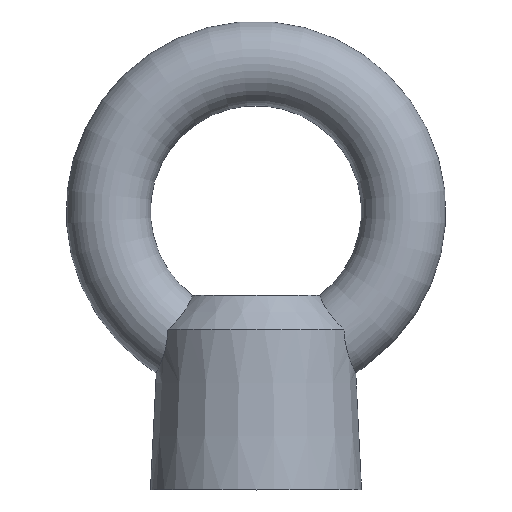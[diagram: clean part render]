
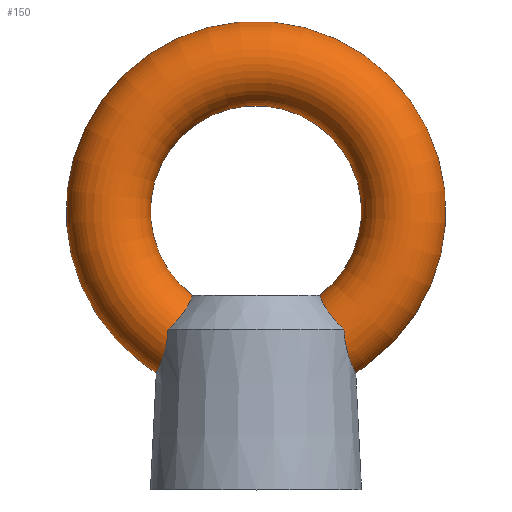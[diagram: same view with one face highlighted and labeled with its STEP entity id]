
A CAD part, top view. The second image highlights one B-rep face of the part: STEP entity #150.
In plain terms, the highlighted toroidal (fillet/blend) face has major radius 35 mm and minor radius 10 mm.
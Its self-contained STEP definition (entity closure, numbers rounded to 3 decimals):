
#19=B_SPLINE_CURVE_WITH_KNOTS('',3,(#259,#260,#261,#262,#263,#264,#265,
#266,#267,#268,#269,#270,#271,#272,#273,#274,#275,#276,#277,#278),
 .UNSPECIFIED.,.F.,.F.,(4,2,2,2,2,2,2,2,2,4),(0.,0.428,0.811,
1.187,1.574,1.967,2.358,2.738,
3.036,3.321),.UNSPECIFIED.);
#20=B_SPLINE_CURVE_WITH_KNOTS('',3,(#280,#281,#282,#283,#284,#285,#286,
#287,#288,#289,#290,#291),.UNSPECIFIED.,.F.,.F.,(4,2,2,2,2,4),(1.573,
1.887,2.273,2.654,2.9,3.145),
 .UNSPECIFIED.);
#21=B_SPLINE_CURVE_WITH_KNOTS('',3,(#295,#296,#297,#298,#299,#300,#301,
#302,#303,#304,#305,#306),.UNSPECIFIED.,.F.,.F.,(4,2,2,2,2,4),(0.,0.382,
0.748,1.125,1.515,1.573),
 .UNSPECIFIED.);
#22=B_SPLINE_CURVE_WITH_KNOTS('',3,(#308,#309,#310,#311,#312,#313,#314,
#315,#316,#317,#318,#319),.UNSPECIFIED.,.F.,.F.,(4,2,2,2,2,4),(1.662,
1.967,2.358,2.738,3.036,3.321),
 .UNSPECIFIED.);
#23=B_SPLINE_CURVE_WITH_KNOTS('',3,(#321,#322,#323,#324,#325,#326,#327,
#328,#329,#330,#331,#332),.UNSPECIFIED.,.F.,.F.,(4,2,2,2,2,4),(0.,0.428,
0.811,1.187,1.574,1.662),
 .UNSPECIFIED.);
#24=B_SPLINE_CURVE_WITH_KNOTS('',3,(#333,#334,#335,#336,#337,#338,#339,
#340,#341,#342,#343,#344),.UNSPECIFIED.,.F.,.F.,(4,2,2,2,2,4),(1.573,
1.887,2.273,2.654,2.9,3.145),
 .UNSPECIFIED.);
#25=B_SPLINE_CURVE_WITH_KNOTS('',3,(#345,#346,#347,#348,#349,#350,#351,
#352,#353,#354,#355,#356),.UNSPECIFIED.,.F.,.F.,(4,2,2,2,2,4),(0.,0.382,
0.748,1.125,1.515,1.573),
 .UNSPECIFIED.);
#26=TOROIDAL_SURFACE('',#183,35.,10.);
#33=FACE_OUTER_BOUND('',#41,.T.);
#41=EDGE_LOOP('',(#114,#115,#116,#117,#118,#119,#120,#121,#122));
#60=CIRCLE('',#184,25.);
#72=VERTEX_POINT('',#257);
#73=VERTEX_POINT('',#258);
#74=VERTEX_POINT('',#279);
#75=VERTEX_POINT('',#292);
#76=VERTEX_POINT('',#294);
#77=VERTEX_POINT('',#307);
#78=VERTEX_POINT('',#320);
#88=EDGE_CURVE('',#72,#73,#19,.T.);
#89=EDGE_CURVE('',#74,#72,#20,.T.);
#90=EDGE_CURVE('',#74,#75,#60,.T.);
#91=EDGE_CURVE('',#76,#75,#21,.T.);
#92=EDGE_CURVE('',#77,#76,#22,.T.);
#93=EDGE_CURVE('',#78,#77,#23,.T.);
#94=EDGE_CURVE('',#75,#78,#24,.T.);
#95=EDGE_CURVE('',#73,#74,#25,.T.);
#114=ORIENTED_EDGE('',*,*,#88,.F.);
#115=ORIENTED_EDGE('',*,*,#89,.F.);
#116=ORIENTED_EDGE('',*,*,#90,.T.);
#117=ORIENTED_EDGE('',*,*,#91,.F.);
#118=ORIENTED_EDGE('',*,*,#92,.F.);
#119=ORIENTED_EDGE('',*,*,#93,.F.);
#120=ORIENTED_EDGE('',*,*,#94,.F.);
#121=ORIENTED_EDGE('',*,*,#90,.F.);
#122=ORIENTED_EDGE('',*,*,#95,.F.);
#150=ADVANCED_FACE('',(#33),#26,.T.);
#183=AXIS2_PLACEMENT_3D('',#256,#214,#215);
#184=AXIS2_PLACEMENT_3D('',#293,#216,#217);
#214=DIRECTION('center_axis',(0.,0.,1.));
#215=DIRECTION('ref_axis',(0.,1.,0.));
#216=DIRECTION('center_axis',(0.,0.,-1.));
#217=DIRECTION('ref_axis',(0.,1.,0.));
#256=CARTESIAN_POINT('Origin',(0.,66.,0.));
#257=CARTESIAN_POINT('',(-20.825,38.,9.999));
#258=CARTESIAN_POINT('',(-20.825,38.,-9.999));
#259=CARTESIAN_POINT('Ctrl Pts',(-20.825,38.,9.999));
#260=CARTESIAN_POINT('Ctrl Pts',(-20.898,36.575,10.012));
#261=CARTESIAN_POINT('Ctrl Pts',(-21.075,35.184,9.816));
#262=CARTESIAN_POINT('Ctrl Pts',(-21.606,32.702,8.912));
#263=CARTESIAN_POINT('Ctrl Pts',(-21.925,31.654,8.279));
#264=CARTESIAN_POINT('Ctrl Pts',(-22.572,29.881,6.624));
#265=CARTESIAN_POINT('Ctrl Pts',(-22.885,29.18,5.637));
#266=CARTESIAN_POINT('Ctrl Pts',(-23.379,28.141,3.388));
#267=CARTESIAN_POINT('Ctrl Pts',(-23.547,27.826,2.142));
#268=CARTESIAN_POINT('Ctrl Pts',(-23.651,27.629,-0.432));
#269=CARTESIAN_POINT('Ctrl Pts',(-23.583,27.753,-1.736));
#270=CARTESIAN_POINT('Ctrl Pts',(-23.234,28.443,-4.211));
#271=CARTESIAN_POINT('Ctrl Pts',(-22.957,29.003,-5.358));
#272=CARTESIAN_POINT('Ctrl Pts',(-22.329,30.51,-7.318));
#273=CARTESIAN_POINT('Ctrl Pts',(-21.99,31.429,-8.114));
#274=CARTESIAN_POINT('Ctrl Pts',(-21.46,33.337,-9.179));
#275=CARTESIAN_POINT('Ctrl Pts',(-21.26,34.241,-9.511));
#276=CARTESIAN_POINT('Ctrl Pts',(-20.968,36.113,-9.923));
#277=CARTESIAN_POINT('Ctrl Pts',(-20.874,37.052,-10.008));
#278=CARTESIAN_POINT('Ctrl Pts',(-20.825,38.,-9.999));
#279=CARTESIAN_POINT('',(-15.058,46.044,0.));
#280=CARTESIAN_POINT('Ctrl Pts',(-15.058,46.044,0.));
#281=CARTESIAN_POINT('Ctrl Pts',(-15.058,46.044,1.043));
#282=CARTESIAN_POINT('Ctrl Pts',(-15.11,45.879,2.076));
#283=CARTESIAN_POINT('Ctrl Pts',(-15.372,45.186,4.287));
#284=CARTESIAN_POINT('Ctrl Pts',(-15.616,44.589,5.422));
#285=CARTESIAN_POINT('Ctrl Pts',(-16.395,43.139,7.378));
#286=CARTESIAN_POINT('Ctrl Pts',(-16.923,42.303,8.187));
#287=CARTESIAN_POINT('Ctrl Pts',(-18.05,40.85,9.183));
#288=CARTESIAN_POINT('Ctrl Pts',(-18.548,40.271,9.481));
#289=CARTESIAN_POINT('Ctrl Pts',(-19.636,39.117,9.886));
#290=CARTESIAN_POINT('Ctrl Pts',(-20.22,38.55,9.991));
#291=CARTESIAN_POINT('Ctrl Pts',(-20.825,38.,9.999));
#292=CARTESIAN_POINT('',(15.058,46.044,0.));
#293=CARTESIAN_POINT('Origin',(0.,66.,0.));
#294=CARTESIAN_POINT('',(20.825,38.,9.999));
#295=CARTESIAN_POINT('Ctrl Pts',(20.825,38.,9.999));
#296=CARTESIAN_POINT('Ctrl Pts',(19.883,38.855,9.986));
#297=CARTESIAN_POINT('Ctrl Pts',(19.,39.751,9.74));
#298=CARTESIAN_POINT('Ctrl Pts',(17.502,41.511,8.802));
#299=CARTESIAN_POINT('Ctrl Pts',(16.902,42.349,8.144));
#300=CARTESIAN_POINT('Ctrl Pts',(15.958,43.897,6.457));
#301=CARTESIAN_POINT('Ctrl Pts',(15.632,44.583,5.437));
#302=CARTESIAN_POINT('Ctrl Pts',(15.195,45.62,3.147));
#303=CARTESIAN_POINT('Ctrl Pts',(15.089,45.951,1.881));
#304=CARTESIAN_POINT('Ctrl Pts',(15.06,46.038,0.386));
#305=CARTESIAN_POINT('Ctrl Pts',(15.058,46.044,0.193));
#306=CARTESIAN_POINT('Ctrl Pts',(15.058,46.044,0.));
#307=CARTESIAN_POINT('',(23.616,27.695,0.));
#308=CARTESIAN_POINT('Ctrl Pts',(23.616,27.695,0.));
#309=CARTESIAN_POINT('Ctrl Pts',(23.616,27.695,1.007));
#310=CARTESIAN_POINT('Ctrl Pts',(23.544,27.829,2.011));
#311=CARTESIAN_POINT('Ctrl Pts',(23.234,28.443,4.211));
#312=CARTESIAN_POINT('Ctrl Pts',(22.957,29.003,5.358));
#313=CARTESIAN_POINT('Ctrl Pts',(22.329,30.51,7.318));
#314=CARTESIAN_POINT('Ctrl Pts',(21.99,31.429,8.114));
#315=CARTESIAN_POINT('Ctrl Pts',(21.46,33.337,9.179));
#316=CARTESIAN_POINT('Ctrl Pts',(21.26,34.241,9.511));
#317=CARTESIAN_POINT('Ctrl Pts',(20.968,36.113,9.923));
#318=CARTESIAN_POINT('Ctrl Pts',(20.874,37.052,10.008));
#319=CARTESIAN_POINT('Ctrl Pts',(20.825,38.,9.999));
#320=CARTESIAN_POINT('',(20.825,38.,-9.999));
#321=CARTESIAN_POINT('Ctrl Pts',(20.825,38.,-9.999));
#322=CARTESIAN_POINT('Ctrl Pts',(20.898,36.575,-10.012));
#323=CARTESIAN_POINT('Ctrl Pts',(21.075,35.184,-9.816));
#324=CARTESIAN_POINT('Ctrl Pts',(21.606,32.702,-8.912));
#325=CARTESIAN_POINT('Ctrl Pts',(21.925,31.654,-8.279));
#326=CARTESIAN_POINT('Ctrl Pts',(22.572,29.881,-6.624));
#327=CARTESIAN_POINT('Ctrl Pts',(22.885,29.18,-5.637));
#328=CARTESIAN_POINT('Ctrl Pts',(23.379,28.141,-3.388));
#329=CARTESIAN_POINT('Ctrl Pts',(23.547,27.826,-2.142));
#330=CARTESIAN_POINT('Ctrl Pts',(23.611,27.706,-0.575));
#331=CARTESIAN_POINT('Ctrl Pts',(23.616,27.695,-0.287));
#332=CARTESIAN_POINT('Ctrl Pts',(23.616,27.695,0.));
#333=CARTESIAN_POINT('Ctrl Pts',(15.058,46.044,0.));
#334=CARTESIAN_POINT('Ctrl Pts',(15.058,46.044,-1.043));
#335=CARTESIAN_POINT('Ctrl Pts',(15.11,45.879,-2.076));
#336=CARTESIAN_POINT('Ctrl Pts',(15.372,45.186,-4.287));
#337=CARTESIAN_POINT('Ctrl Pts',(15.616,44.589,-5.422));
#338=CARTESIAN_POINT('Ctrl Pts',(16.395,43.139,-7.378));
#339=CARTESIAN_POINT('Ctrl Pts',(16.923,42.303,-8.187));
#340=CARTESIAN_POINT('Ctrl Pts',(18.05,40.85,-9.183));
#341=CARTESIAN_POINT('Ctrl Pts',(18.548,40.271,-9.481));
#342=CARTESIAN_POINT('Ctrl Pts',(19.636,39.117,-9.886));
#343=CARTESIAN_POINT('Ctrl Pts',(20.22,38.55,-9.991));
#344=CARTESIAN_POINT('Ctrl Pts',(20.825,38.,-9.999));
#345=CARTESIAN_POINT('Ctrl Pts',(-20.825,38.,-9.999));
#346=CARTESIAN_POINT('Ctrl Pts',(-19.883,38.855,-9.986));
#347=CARTESIAN_POINT('Ctrl Pts',(-19.,39.751,-9.74));
#348=CARTESIAN_POINT('Ctrl Pts',(-17.502,41.511,-8.802));
#349=CARTESIAN_POINT('Ctrl Pts',(-16.902,42.349,-8.144));
#350=CARTESIAN_POINT('Ctrl Pts',(-15.958,43.897,-6.457));
#351=CARTESIAN_POINT('Ctrl Pts',(-15.632,44.583,-5.437));
#352=CARTESIAN_POINT('Ctrl Pts',(-15.195,45.62,-3.147));
#353=CARTESIAN_POINT('Ctrl Pts',(-15.089,45.951,-1.881));
#354=CARTESIAN_POINT('Ctrl Pts',(-15.06,46.038,-0.386));
#355=CARTESIAN_POINT('Ctrl Pts',(-15.058,46.044,-0.193));
#356=CARTESIAN_POINT('Ctrl Pts',(-15.058,46.044,0.));
